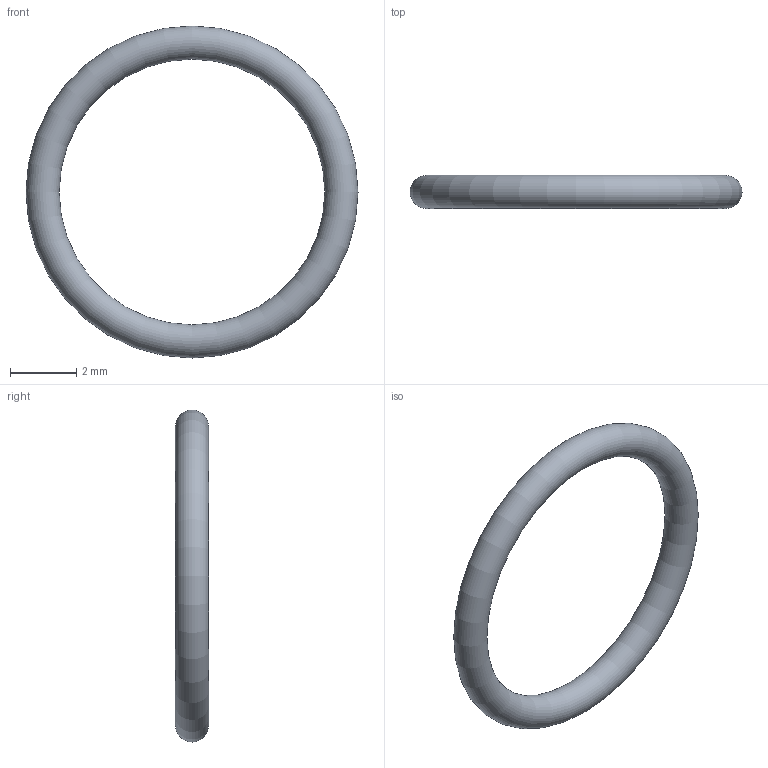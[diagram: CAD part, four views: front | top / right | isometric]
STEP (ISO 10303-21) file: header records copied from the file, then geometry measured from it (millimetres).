
FILE_DESCRIPTION( ( 'STEP AP203' ), '1' );
FILE_NAME( 'C:/Temp/Ganter_Step_05_03_2020/data/3_5/or638/O-Ring OR638-8.00-1.00-70.stp', '2020-03-12T13:44:16', ( 'License CC BY-ND 4.0' ), ( 'CADENAS' ), ' ', 'PARTsolutions', ' ' );
FILE_SCHEMA( ( 'CONFIG_CONTROL_DESIGN' ) );
Length unit declared in the file: millimetre
Products named in the file (1): _O-Ring OR638-8.00-1.00-70
Bounding box: 10 x 1 x 10 mm (x, y, z)
Volume: 22.2 mm3; surface area: 88.8 mm2
Topology: 1 solids, 1 shells, 1 faces, 2 edges, 1 vertices
Faces by surface type: torus 1
Entity records: 62 total; most frequent: CC_DESIGN_PERSON_AND_ORGANIZATION_ASSIGNMENT 5, PERSON_AND_ORGANIZATION_ROLE 4, DIRECTION 4, CARTESIAN_POINT 3, DATE_TIME_ROLE 2, CC_DESIGN_DATE_AND_TIME_ASSIGNMENT 2, AXIS2_PLACEMENT_3D 2, DIMENSIONAL_EXPONENTS 2
